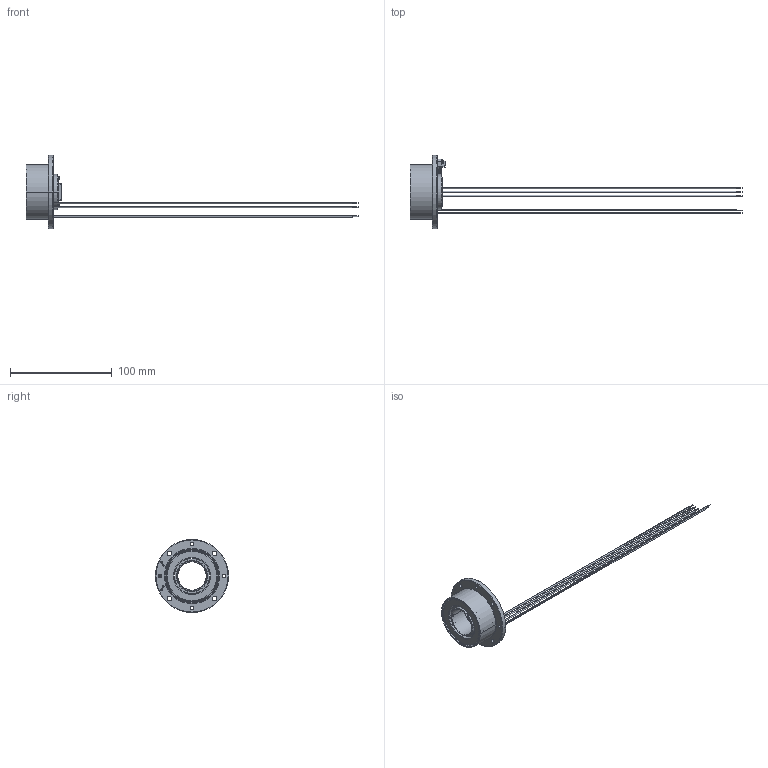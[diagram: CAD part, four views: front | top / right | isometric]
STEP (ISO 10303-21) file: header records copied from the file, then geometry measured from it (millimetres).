
FILE_DESCRIPTION((''),'2;1');
FILE_NAME('8369329_ASM','2022-02-11T07:23:23',('MMAGMUAG'),(''),'CREO PARAMETRIC BY PTC INC, 2020342','CREO PARAMETRIC BY PTC INC, 2020342','');
FILE_SCHEMA(('CONFIG_CONTROL_DESIGN','SHAPE_APPEARANCE_LAYERS_GROUPS'));
Products named in the file (15): 7835205; 8282388; 8283336; 8284216; 8285396_ASM; 8284624_ASM; 8369494; 6428468; 6421355; 6732790; 6413567; 6421360_ASM; 6500601; ISO_14583_M020_080; 8369329_ASM
Assembly tree (18 placements, depth 4):
  8369329_ASM
    8284624_ASM
      8285396_ASM
        7835205
        8282388
        8283336  x3
        8284216  x2
    8369494
    6428468
    6421360_ASM
      6421355
      6732790
      6413567
    6500601
    ISO_14583_M020_080  x2
Bounding box: 327 x 72 x 72 mm (x, y, z)
Volume: 52545.1 mm3; surface area: 42302.4 mm2
Topology: 53 solids, 59 shells, 2834 faces, 8144 edges, 5405 vertices
Faces by surface type: plane 1683, cylinder 798, sphere 229, cone 65, torus 30, bspline 29
Entity records: 147537 total; most frequent: CARTESIAN_POINT 36945, ORIENTED_EDGE 15650, DIRECTION 13531, PRESENTATION_STYLE_ASSIGNMENT 10041, STYLED_ITEM 7918, CURVE_STYLE 7825, EDGE_CURVE 7825, VERTEX_POINT 5343
